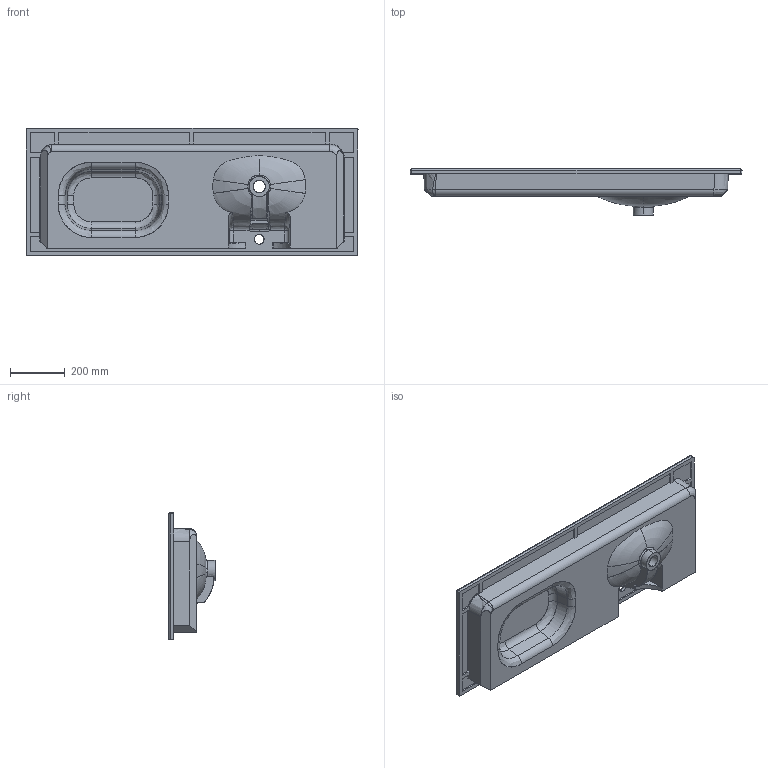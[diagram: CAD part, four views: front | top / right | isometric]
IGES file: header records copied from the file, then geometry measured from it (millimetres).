
Start section: SolidWorks IGES file using NURBS representation for surfaces
Global section: file name: E:\Soft\lavabi definitivi soft 46 m\soft 1210 x 465 dx  art..IGS; native system: SolidWorks 2016; preprocessor: SolidWorks 2016; author: User; date: 210209.103204; units: millimetre
Bounding box: 1210 x 168 x 465 mm (x, y, z)
Surface area: 1577365 mm2 (no closed solid volume)
Topology: 0 solids, 0 shells, 168 faces, 2389 edges, 2385 vertices
Faces by surface type: bspline 168
